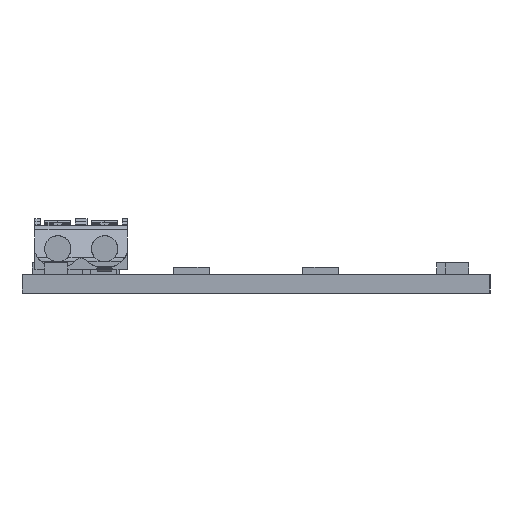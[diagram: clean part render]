
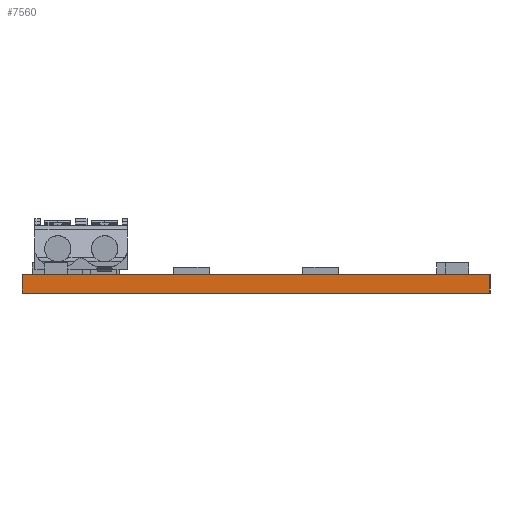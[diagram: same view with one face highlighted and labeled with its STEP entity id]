
A CAD part, left-side view. The second image highlights one B-rep face of the part: STEP entity #7560.
In plain terms, the highlighted planar face has unit normal (-1, 0, 0).
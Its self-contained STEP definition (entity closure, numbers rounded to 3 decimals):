
#37=DIRECTION('',(0.,-1.,0.));
#38=VECTOR('',#37,39.98);
#39=CARTESIAN_POINT('',(0.,39.98,0.));
#40=LINE('',#39,#38);
#1960=DIRECTION('',(0.,0.,1.));
#1961=VECTOR('',#1960,1.6);
#1962=CARTESIAN_POINT('',(0.,0.,0.));
#1963=LINE('',#1962,#1961);
#1967=DIRECTION('',(0.,0.,1.));
#1968=VECTOR('',#1967,1.6);
#1969=CARTESIAN_POINT('',(0.,39.98,0.));
#1970=LINE('',#1969,#1968);
#1995=DIRECTION('',(0.,-1.,0.));
#1996=VECTOR('',#1995,39.98);
#1997=CARTESIAN_POINT('',(0.,39.98,1.6));
#1998=LINE('',#1997,#1996);
#5836=CARTESIAN_POINT('',(0.,0.,0.));
#5838=VERTEX_POINT('',#5836);
#5842=CARTESIAN_POINT('',(0.,39.98,0.));
#5843=VERTEX_POINT('',#5842);
#6364=CARTESIAN_POINT('',(0.,0.,1.6));
#6366=VERTEX_POINT('',#6364);
#6370=CARTESIAN_POINT('',(0.,39.98,1.6));
#6371=VERTEX_POINT('',#6370);
#7547=CARTESIAN_POINT('',(0.,39.98,0.));
#7548=DIRECTION('',(-1.,0.,0.));
#7549=DIRECTION('',(0.,-1.,0.));
#7550=AXIS2_PLACEMENT_3D('',#7547,#7548,#7549);
#7551=PLANE('',#7550);
#7552=ORIENTED_EDGE('',*,*,#6951,.F.);
#7554=ORIENTED_EDGE('',*,*,#7553,.T.);
#7556=ORIENTED_EDGE('',*,*,#7555,.T.);
#7557=ORIENTED_EDGE('',*,*,#7538,.F.);
#7558=EDGE_LOOP('',(#7552,#7554,#7556,#7557));
#7559=FACE_OUTER_BOUND('',#7558,.F.);
#6951=EDGE_CURVE('',#5843,#5838,#40,.T.);
#7538=EDGE_CURVE('',#5838,#6366,#1963,.T.);
#7553=EDGE_CURVE('',#5843,#6371,#1970,.T.);
#7555=EDGE_CURVE('',#6371,#6366,#1998,.T.);
#7560=ADVANCED_FACE('',(#7559),#7551,.T.);
